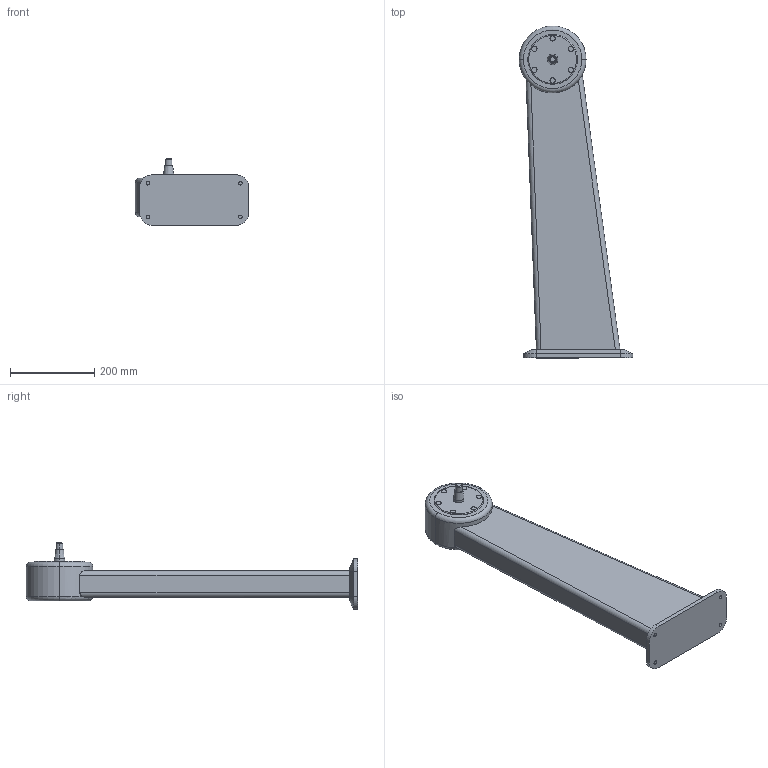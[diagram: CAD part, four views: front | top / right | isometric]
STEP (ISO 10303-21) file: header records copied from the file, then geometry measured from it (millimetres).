
FILE_DESCRIPTION (( 'STEP AP214' ), '1' );
FILE_NAME ('WP700_H710_+05.STEP', '2014-08-14T09:51:42', ( '' ), ( '' ), 'SwSTEP 2.0', 'SolidWorks 2014', '' );
FILE_SCHEMA (( 'AUTOMOTIVE_DESIGN' ));
Length unit declared in the file: millimetre
Products named in the file (1): WP700_H710_+05
Bounding box: 270.29 x 789.5 x 158.3 mm (x, y, z)
Volume: 8849412.7 mm3; surface area: 411042.7 mm2
Topology: 1 solids, 1 shells, 79 faces, 171 edges, 108 vertices
Faces by surface type: cylinder 36, plane 29, cone 8, torus 6
Entity records: 2290 total; most frequent: CARTESIAN_POINT 471, DIRECTION 408, ORIENTED_EDGE 342, EDGE_CURVE 171, AXIS2_PLACEMENT_3D 167, VERTEX_POINT 108, EDGE_LOOP 93, CIRCLE 87
